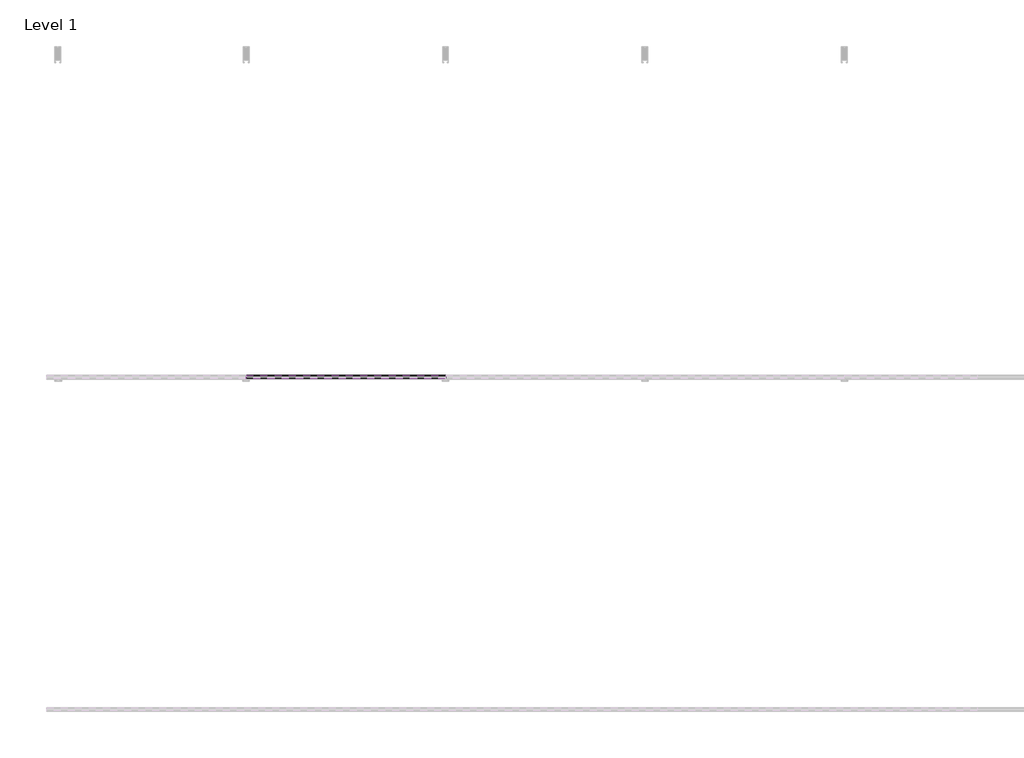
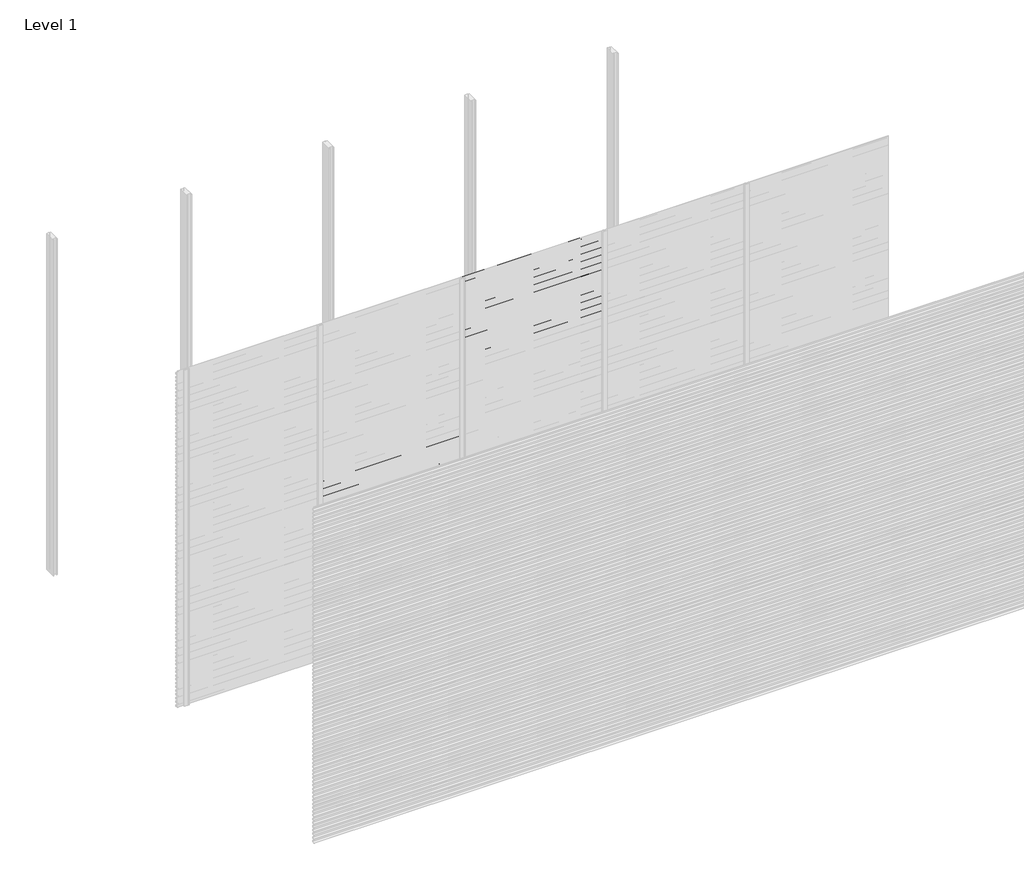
# One storey, part 44 of 77: 72 proxies.
"""IFC4 building model written with IfcOpenShell, lengths in millimetres."""

from ifc_helpers import new_model, si_unit, frame, origin, place, context, project, spatial, polyline, outline, extrude, element, save

model = new_model("IFC4")

# Units and contexts
model_context = context("Model", 3, world=origin())
ifc_project = project(units=[si_unit("LENGTHUNIT", "METRE", prefix="MILLI")], contexts=[model_context])

# Site, building, storey
site = spatial("IfcSite", under=ifc_project)
building = spatial("IfcBuilding", under=site)
storey = spatial("IfcBuildingStorey", under=building, Name="Level 1", Elevation=0.0)

# Proxies
placement = place(None, origin())
element("IfcBuildingElementProxy", 1, Name="Wall Sweeps", at=placement, inside=storey, context=model_context, shape_type="SweptSolid", body=[
    extrude(outline(polyline([(-23978.6, 1607.2359887), (-23998.0, 1618.4366691), (-23998.0, 1631.7), (-23997.0, 1631.7), (-23997.0, 1619.0191057), (-23977.6, 1607.8185105), (-23977.6, 1594.2185105), (-23978.6, 1595.7953129), (-23978.6, 1601.6032062), (-23995.9773817, 1593.5), (-23996.4, 1594.4063078), (-23978.6, 1602.7065841), (-23978.6, 1607.2359887)])), frame((1200.0, 0.0, 0.0), z_axis=(1.0, 0.0, 0.0), x_axis=(0.0, 1.0, 0.0)), (0.0, 0.0, 1.0), 1200.0),
])
element("IfcBuildingElementProxy", 2, Name="Wall Sweeps", at=placement, inside=storey, context=model_context, shape_type="SweptSolid", body=[
    extrude(outline(polyline([(-23978.6, 1573.9359887), (-23998.0, 1585.1366691), (-23998.0, 1598.4), (-23997.0, 1598.4), (-23997.0, 1585.7191057), (-23977.6, 1574.5185105), (-23977.6, 1560.9185105), (-23978.6, 1562.4953129), (-23978.6, 1568.3032062), (-23995.9773817, 1560.2), (-23996.4, 1561.1063078), (-23978.6, 1569.4065841), (-23978.6, 1573.9359887)])), frame((1200.0, 0.0, 0.0), z_axis=(1.0, 0.0, 0.0), x_axis=(0.0, 1.0, 0.0)), (0.0, 0.0, 1.0), 1200.0),
])
element("IfcBuildingElementProxy", 3, Name="Wall Sweeps", at=placement, inside=storey, context=model_context, shape_type="SweptSolid", body=[
    extrude(outline(polyline([(-23978.6, 1540.6359887), (-23998.0, 1551.8366691), (-23998.0, 1565.1), (-23997.0, 1565.1), (-23997.0, 1552.4191057), (-23977.6, 1541.2185105), (-23977.6, 1527.6185105), (-23978.6, 1529.1953129), (-23978.6, 1535.0032062), (-23995.9773817, 1526.9), (-23996.4, 1527.8063078), (-23978.6, 1536.1065841), (-23978.6, 1540.6359887)])), frame((1200.0, 0.0, 0.0), z_axis=(1.0, 0.0, 0.0), x_axis=(0.0, 1.0, 0.0)), (0.0, 0.0, 1.0), 1200.0),
])
element("IfcBuildingElementProxy", 4, Name="Wall Sweeps", at=placement, inside=storey, context=model_context, shape_type="SweptSolid", body=[
    extrude(outline(polyline([(-23978.6, 1507.3359887), (-23998.0, 1518.5366691), (-23998.0, 1531.8), (-23997.0, 1531.8), (-23997.0, 1519.1191057), (-23977.6, 1507.9185105), (-23977.6, 1494.3185105), (-23978.6, 1495.8953129), (-23978.6, 1501.7032062), (-23995.9773817, 1493.6), (-23996.4, 1494.5063078), (-23978.6, 1502.8065841), (-23978.6, 1507.3359887)])), frame((1200.0, 0.0, 0.0), z_axis=(1.0, 0.0, 0.0), x_axis=(0.0, 1.0, 0.0)), (0.0, 0.0, 1.0), 1200.0),
])
element("IfcBuildingElementProxy", 5, Name="Wall Sweeps", at=placement, inside=storey, context=model_context, shape_type="SweptSolid", body=[
    extrude(outline(polyline([(-23978.6, 1474.0359887), (-23998.0, 1485.2366691), (-23998.0, 1498.5), (-23997.0, 1498.5), (-23997.0, 1485.8191057), (-23977.6, 1474.6185105), (-23977.6, 1461.0185105), (-23978.6, 1462.5953129), (-23978.6, 1468.4032062), (-23995.9773817, 1460.3), (-23996.4, 1461.2063078), (-23978.6, 1469.5065841), (-23978.6, 1474.0359887)])), frame((1200.0, 0.0, 0.0), z_axis=(1.0, 0.0, 0.0), x_axis=(0.0, 1.0, 0.0)), (0.0, 0.0, 1.0), 1200.0),
])
element("IfcBuildingElementProxy", 6, Name="Wall Sweeps", at=placement, inside=storey, context=model_context, shape_type="SweptSolid", body=[
    extrude(outline(polyline([(-23978.6, 1440.7359887), (-23998.0, 1451.9366691), (-23998.0, 1465.2), (-23997.0, 1465.2), (-23997.0, 1452.5191057), (-23977.6, 1441.3185105), (-23977.6, 1427.7185105), (-23978.6, 1429.2953129), (-23978.6, 1435.1032062), (-23995.9773817, 1427.0), (-23996.4, 1427.9063078), (-23978.6, 1436.2065841), (-23978.6, 1440.7359887)])), frame((1200.0, 0.0, 0.0), z_axis=(1.0, 0.0, 0.0), x_axis=(0.0, 1.0, 0.0)), (0.0, 0.0, 1.0), 1200.0),
])
element("IfcBuildingElementProxy", 7, Name="Wall Sweeps", at=placement, inside=storey, context=model_context, shape_type="SweptSolid", body=[
    extrude(outline(polyline([(-23978.6, 1407.4359887), (-23998.0, 1418.6366691), (-23998.0, 1431.9), (-23997.0, 1431.9), (-23997.0, 1419.2191057), (-23977.6, 1408.0185105), (-23977.6, 1394.4185105), (-23978.6, 1395.9953129), (-23978.6, 1401.8032062), (-23995.9773817, 1393.7), (-23996.4, 1394.6063078), (-23978.6, 1402.9065841), (-23978.6, 1407.4359887)])), frame((1200.0, 0.0, 0.0), z_axis=(1.0, 0.0, 0.0), x_axis=(0.0, 1.0, 0.0)), (0.0, 0.0, 1.0), 1200.0),
])
element("IfcBuildingElementProxy", 8, Name="Wall Sweeps", at=placement, inside=storey, context=model_context, shape_type="SweptSolid", body=[
    extrude(outline(polyline([(-23978.6, 1374.1359887), (-23998.0, 1385.3366691), (-23998.0, 1398.6), (-23997.0, 1398.6), (-23997.0, 1385.9191057), (-23977.6, 1374.7185105), (-23977.6, 1361.1185105), (-23978.6, 1362.6953129), (-23978.6, 1368.5032062), (-23995.9773817, 1360.4), (-23996.4, 1361.3063078), (-23978.6, 1369.6065841), (-23978.6, 1374.1359887)])), frame((1200.0, 0.0, 0.0), z_axis=(1.0, 0.0, 0.0), x_axis=(0.0, 1.0, 0.0)), (0.0, 0.0, 1.0), 1200.0),
])
element("IfcBuildingElementProxy", 9, Name="Wall Sweeps", at=placement, inside=storey, context=model_context, shape_type="SweptSolid", body=[
    extrude(outline(polyline([(-23978.6, 1340.8359887), (-23998.0, 1352.0366691), (-23998.0, 1365.3), (-23997.0, 1365.3), (-23997.0, 1352.6191057), (-23977.6, 1341.4185105), (-23977.6, 1327.8185105), (-23978.6, 1329.3953129), (-23978.6, 1335.2032062), (-23995.9773817, 1327.1), (-23996.4, 1328.0063078), (-23978.6, 1336.3065841), (-23978.6, 1340.8359887)])), frame((1200.0, 0.0, 0.0), z_axis=(1.0, 0.0, 0.0), x_axis=(0.0, 1.0, 0.0)), (0.0, 0.0, 1.0), 1200.0),
])
element("IfcBuildingElementProxy", 10, Name="Wall Sweeps", at=placement, inside=storey, context=model_context, shape_type="SweptSolid", body=[
    extrude(outline(polyline([(-23978.6, 1307.5359887), (-23998.0, 1318.7366691), (-23998.0, 1332.0), (-23997.0, 1332.0), (-23997.0, 1319.3191057), (-23977.6, 1308.1185105), (-23977.6, 1294.5185105), (-23978.6, 1296.0953129), (-23978.6, 1301.9032062), (-23995.9773817, 1293.8), (-23996.4, 1294.7063078), (-23978.6, 1303.0065841), (-23978.6, 1307.5359887)])), frame((1200.0, 0.0, 0.0), z_axis=(1.0, 0.0, 0.0), x_axis=(0.0, 1.0, 0.0)), (0.0, 0.0, 1.0), 1200.0),
])
element("IfcBuildingElementProxy", 11, Name="Wall Sweeps", at=placement, inside=storey, context=model_context, shape_type="SweptSolid", body=[
    extrude(outline(polyline([(-23978.6, 1274.2359887), (-23998.0, 1285.4366691), (-23998.0, 1298.7), (-23997.0, 1298.7), (-23997.0, 1286.0191057), (-23977.6, 1274.8185105), (-23977.6, 1261.2185105), (-23978.6, 1262.7953129), (-23978.6, 1268.6032062), (-23995.9773817, 1260.5), (-23996.4, 1261.4063078), (-23978.6, 1269.7065841), (-23978.6, 1274.2359887)])), frame((1200.0, 0.0, 0.0), z_axis=(1.0, 0.0, 0.0), x_axis=(0.0, 1.0, 0.0)), (0.0, 0.0, 1.0), 1200.0),
])
element("IfcBuildingElementProxy", 12, Name="Wall Sweeps", at=placement, inside=storey, context=model_context, shape_type="SweptSolid", body=[
    extrude(outline(polyline([(-23978.6, 1240.9359887), (-23998.0, 1252.1366691), (-23998.0, 1265.4), (-23997.0, 1265.4), (-23997.0, 1252.7191057), (-23977.6, 1241.5185105), (-23977.6, 1227.9185105), (-23978.6, 1229.4953129), (-23978.6, 1235.3032062), (-23995.9773817, 1227.2), (-23996.4, 1228.1063078), (-23978.6, 1236.4065841), (-23978.6, 1240.9359887)])), frame((1200.0, 0.0, 0.0), z_axis=(1.0, 0.0, 0.0), x_axis=(0.0, 1.0, 0.0)), (0.0, 0.0, 1.0), 1200.0),
])
element("IfcBuildingElementProxy", 13, Name="Wall Sweeps", at=placement, inside=storey, context=model_context, shape_type="SweptSolid", body=[
    extrude(outline(polyline([(-23978.6, 1207.6359887), (-23998.0, 1218.8366691), (-23998.0, 1232.1), (-23997.0, 1232.1), (-23997.0, 1219.4191057), (-23977.6, 1208.2185105), (-23977.6, 1194.6185105), (-23978.6, 1196.1953129), (-23978.6, 1202.0032062), (-23995.9773817, 1193.9), (-23996.4, 1194.8063078), (-23978.6, 1203.1065841), (-23978.6, 1207.6359887)])), frame((1200.0, 0.0, 0.0), z_axis=(1.0, 0.0, 0.0), x_axis=(0.0, 1.0, 0.0)), (0.0, 0.0, 1.0), 1200.0),
])
element("IfcBuildingElementProxy", 14, Name="Wall Sweeps", at=placement, inside=storey, context=model_context, shape_type="SweptSolid", body=[
    extrude(outline(polyline([(-23978.6, 1174.3359887), (-23998.0, 1185.5366691), (-23998.0, 1198.8), (-23997.0, 1198.8), (-23997.0, 1186.1191057), (-23977.6, 1174.9185105), (-23977.6, 1161.3185105), (-23978.6, 1162.8953129), (-23978.6, 1168.7032062), (-23995.9773817, 1160.6), (-23996.4, 1161.5063078), (-23978.6, 1169.8065841), (-23978.6, 1174.3359887)])), frame((1200.0, 0.0, 0.0), z_axis=(1.0, 0.0, 0.0), x_axis=(0.0, 1.0, 0.0)), (0.0, 0.0, 1.0), 1200.0),
])
element("IfcBuildingElementProxy", 15, Name="Wall Sweeps", at=placement, inside=storey, context=model_context, shape_type="SweptSolid", body=[
    extrude(outline(polyline([(-23978.6, 1141.0359887), (-23998.0, 1152.2366691), (-23998.0, 1165.5), (-23997.0, 1165.5), (-23997.0, 1152.8191057), (-23977.6, 1141.6185105), (-23977.6, 1128.0185105), (-23978.6, 1129.5953129), (-23978.6, 1135.4032062), (-23995.9773817, 1127.3), (-23996.4, 1128.2063078), (-23978.6, 1136.5065841), (-23978.6, 1141.0359887)])), frame((1200.0, 0.0, 0.0), z_axis=(1.0, 0.0, 0.0), x_axis=(0.0, 1.0, 0.0)), (0.0, 0.0, 1.0), 1200.0),
])
element("IfcBuildingElementProxy", 16, Name="Wall Sweeps", at=placement, inside=storey, context=model_context, shape_type="SweptSolid", body=[
    extrude(outline(polyline([(-23978.6, 1107.7359887), (-23998.0, 1118.9366691), (-23998.0, 1132.2), (-23997.0, 1132.2), (-23997.0, 1119.5191057), (-23977.6, 1108.3185105), (-23977.6, 1094.7185105), (-23978.6, 1096.2953129), (-23978.6, 1102.1032062), (-23995.9773817, 1094.0), (-23996.4, 1094.9063078), (-23978.6, 1103.2065841), (-23978.6, 1107.7359887)])), frame((1200.0, 0.0, 0.0), z_axis=(1.0, 0.0, 0.0), x_axis=(0.0, 1.0, 0.0)), (0.0, 0.0, 1.0), 1200.0),
])
element("IfcBuildingElementProxy", 17, Name="Wall Sweeps", at=placement, inside=storey, context=model_context, shape_type="SweptSolid", body=[
    extrude(outline(polyline([(-23978.6, 1074.4359887), (-23998.0, 1085.6366691), (-23998.0, 1098.9), (-23997.0, 1098.9), (-23997.0, 1086.2191057), (-23977.6, 1075.0185105), (-23977.6, 1061.4185105), (-23978.6, 1062.9953129), (-23978.6, 1068.8032062), (-23995.9773817, 1060.7), (-23996.4, 1061.6063078), (-23978.6, 1069.9065841), (-23978.6, 1074.4359887)])), frame((1200.0, 0.0, 0.0), z_axis=(1.0, 0.0, 0.0), x_axis=(0.0, 1.0, 0.0)), (0.0, 0.0, 1.0), 1200.0),
])
element("IfcBuildingElementProxy", 18, Name="Wall Sweeps", at=placement, inside=storey, context=model_context, shape_type="SweptSolid", body=[
    extrude(outline(polyline([(-23978.6, 1041.1359887), (-23998.0, 1052.3366691), (-23998.0, 1065.6), (-23997.0, 1065.6), (-23997.0, 1052.9191057), (-23977.6, 1041.7185105), (-23977.6, 1028.1185105), (-23978.6, 1029.6953129), (-23978.6, 1035.5032062), (-23995.9773817, 1027.4), (-23996.4, 1028.3063078), (-23978.6, 1036.6065841), (-23978.6, 1041.1359887)])), frame((1200.0, 0.0, 0.0), z_axis=(1.0, 0.0, 0.0), x_axis=(0.0, 1.0, 0.0)), (0.0, 0.0, 1.0), 1200.0),
])
element("IfcBuildingElementProxy", 19, Name="Wall Sweeps", at=placement, inside=storey, context=model_context, shape_type="SweptSolid", body=[
    extrude(outline(polyline([(-23978.6, 1007.8359887), (-23998.0, 1019.0366691), (-23998.0, 1032.3), (-23997.0, 1032.3), (-23997.0, 1019.6191057), (-23977.6, 1008.4185105), (-23977.6, 994.8185105), (-23978.6, 996.3953129), (-23978.6, 1002.2032062), (-23995.9773817, 994.1), (-23996.4, 995.0063078), (-23978.6, 1003.3065841), (-23978.6, 1007.8359887)])), frame((1200.0, 0.0, 0.0), z_axis=(1.0, 0.0, 0.0), x_axis=(0.0, 1.0, 0.0)), (0.0, 0.0, 1.0), 1200.0),
])
element("IfcBuildingElementProxy", 20, Name="Wall Sweeps", at=placement, inside=storey, context=model_context, shape_type="SweptSolid", body=[
    extrude(outline(polyline([(-23978.6, 974.5359887), (-23998.0, 985.7366691), (-23998.0, 999.0), (-23997.0, 999.0), (-23997.0, 986.3191057), (-23977.6, 975.1185105), (-23977.6, 961.5185105), (-23978.6, 963.0953129), (-23978.6, 968.9032062), (-23995.9773817, 960.8), (-23996.4, 961.7063078), (-23978.6, 970.0065841), (-23978.6, 974.5359887)])), frame((1200.0, 0.0, 0.0), z_axis=(1.0, 0.0, 0.0), x_axis=(0.0, 1.0, 0.0)), (0.0, 0.0, 1.0), 1200.0),
])
element("IfcBuildingElementProxy", 21, Name="Wall Sweeps", at=placement, inside=storey, context=model_context, shape_type="SweptSolid", body=[
    extrude(outline(polyline([(-23978.6, 941.2359887), (-23998.0, 952.4366691), (-23998.0, 965.7), (-23997.0, 965.7), (-23997.0, 953.0191057), (-23977.6, 941.8185105), (-23977.6, 928.2185105), (-23978.6, 929.7953129), (-23978.6, 935.6032062), (-23995.9773817, 927.5), (-23996.4, 928.4063078), (-23978.6, 936.7065841), (-23978.6, 941.2359887)])), frame((1200.0, 0.0, 0.0), z_axis=(1.0, 0.0, 0.0), x_axis=(0.0, 1.0, 0.0)), (0.0, 0.0, 1.0), 1200.0),
])
element("IfcBuildingElementProxy", 22, Name="Wall Sweeps", at=placement, inside=storey, context=model_context, shape_type="SweptSolid", body=[
    extrude(outline(polyline([(-23978.6, 907.9359887), (-23998.0, 919.1366691), (-23998.0, 932.4), (-23997.0, 932.4), (-23997.0, 919.7191057), (-23977.6, 908.5185105), (-23977.6, 894.9185105), (-23978.6, 896.4953129), (-23978.6, 902.3032062), (-23995.9773817, 894.2), (-23996.4, 895.1063078), (-23978.6, 903.4065841), (-23978.6, 907.9359887)])), frame((1200.0, 0.0, 0.0), z_axis=(1.0, 0.0, 0.0), x_axis=(0.0, 1.0, 0.0)), (0.0, 0.0, 1.0), 1200.0),
])
element("IfcBuildingElementProxy", 23, Name="Wall Sweeps", at=placement, inside=storey, context=model_context, shape_type="SweptSolid", body=[
    extrude(outline(polyline([(-23978.6, 874.6359887), (-23998.0, 885.8366691), (-23998.0, 899.1), (-23997.0, 899.1), (-23997.0, 886.4191057), (-23977.6, 875.2185105), (-23977.6, 861.6185105), (-23978.6, 863.1953129), (-23978.6, 869.0032062), (-23995.9773817, 860.9), (-23996.4, 861.8063078), (-23978.6, 870.1065841), (-23978.6, 874.6359887)])), frame((1200.0, 0.0, 0.0), z_axis=(1.0, 0.0, 0.0), x_axis=(0.0, 1.0, 0.0)), (0.0, 0.0, 1.0), 1200.0),
])
element("IfcBuildingElementProxy", 24, Name="Wall Sweeps", at=placement, inside=storey, context=model_context, shape_type="SweptSolid", body=[
    extrude(outline(polyline([(-23978.6, 841.3359887), (-23998.0, 852.5366691), (-23998.0, 865.8), (-23997.0, 865.8), (-23997.0, 853.1191057), (-23977.6, 841.9185105), (-23977.6, 828.3185105), (-23978.6, 829.8953129), (-23978.6, 835.7032062), (-23995.9773817, 827.6), (-23996.4, 828.5063078), (-23978.6, 836.8065841), (-23978.6, 841.3359887)])), frame((1200.0, 0.0, 0.0), z_axis=(1.0, 0.0, 0.0), x_axis=(0.0, 1.0, 0.0)), (0.0, 0.0, 1.0), 1200.0),
])
element("IfcBuildingElementProxy", 25, Name="Wall Sweeps", at=placement, inside=storey, context=model_context, shape_type="SweptSolid", body=[
    extrude(outline(polyline([(-23978.6, 808.0359887), (-23998.0, 819.2366691), (-23998.0, 832.5), (-23997.0, 832.5), (-23997.0, 819.8191057), (-23977.6, 808.6185105), (-23977.6, 795.0185105), (-23978.6, 796.5953129), (-23978.6, 802.4032062), (-23995.9773817, 794.3), (-23996.4, 795.2063078), (-23978.6, 803.5065841), (-23978.6, 808.0359887)])), frame((1200.0, 0.0, 0.0), z_axis=(1.0, 0.0, 0.0), x_axis=(0.0, 1.0, 0.0)), (0.0, 0.0, 1.0), 1200.0),
])
element("IfcBuildingElementProxy", 26, Name="Wall Sweeps", at=placement, inside=storey, context=model_context, shape_type="SweptSolid", body=[
    extrude(outline(polyline([(-23978.6, 774.7359887), (-23998.0, 785.9366691), (-23998.0, 799.2), (-23997.0, 799.2), (-23997.0, 786.5191057), (-23977.6, 775.3185105), (-23977.6, 761.7185105), (-23978.6, 763.2953129), (-23978.6, 769.1032062), (-23995.9773817, 761.0), (-23996.4, 761.9063078), (-23978.6, 770.2065841), (-23978.6, 774.7359887)])), frame((1200.0, 0.0, 0.0), z_axis=(1.0, 0.0, 0.0), x_axis=(0.0, 1.0, 0.0)), (0.0, 0.0, 1.0), 1200.0),
])
element("IfcBuildingElementProxy", 27, Name="Wall Sweeps", at=placement, inside=storey, context=model_context, shape_type="SweptSolid", body=[
    extrude(outline(polyline([(-23978.6, 741.4359887), (-23998.0, 752.6366691), (-23998.0, 765.9), (-23997.0, 765.9), (-23997.0, 753.2191057), (-23977.6, 742.0185105), (-23977.6, 728.4185105), (-23978.6, 729.9953129), (-23978.6, 735.8032062), (-23995.9773817, 727.7), (-23996.4, 728.6063078), (-23978.6, 736.9065841), (-23978.6, 741.4359887)])), frame((1200.0, 0.0, 0.0), z_axis=(1.0, 0.0, 0.0), x_axis=(0.0, 1.0, 0.0)), (0.0, 0.0, 1.0), 1200.0),
])
element("IfcBuildingElementProxy", 28, Name="Wall Sweeps", at=placement, inside=storey, context=model_context, shape_type="SweptSolid", body=[
    extrude(outline(polyline([(-23978.6, 708.1359887), (-23998.0, 719.3366691), (-23998.0, 732.6), (-23997.0, 732.6), (-23997.0, 719.9191057), (-23977.6, 708.7185105), (-23977.6, 695.1185105), (-23978.6, 696.6953129), (-23978.6, 702.5032062), (-23995.9773817, 694.4), (-23996.4, 695.3063078), (-23978.6, 703.6065841), (-23978.6, 708.1359887)])), frame((1200.0, 0.0, 0.0), z_axis=(1.0, 0.0, 0.0), x_axis=(0.0, 1.0, 0.0)), (0.0, 0.0, 1.0), 1200.0),
])
element("IfcBuildingElementProxy", 29, Name="Wall Sweeps", at=placement, inside=storey, context=model_context, shape_type="SweptSolid", body=[
    extrude(outline(polyline([(-23978.6, 674.8359887), (-23998.0, 686.0366691), (-23998.0, 699.3), (-23997.0, 699.3), (-23997.0, 686.6191057), (-23977.6, 675.4185105), (-23977.6, 661.8185105), (-23978.6, 663.3953129), (-23978.6, 669.2032062), (-23995.9773817, 661.1), (-23996.4, 662.0063078), (-23978.6, 670.3065841), (-23978.6, 674.8359887)])), frame((1200.0, 0.0, 0.0), z_axis=(1.0, 0.0, 0.0), x_axis=(0.0, 1.0, 0.0)), (0.0, 0.0, 1.0), 1200.0),
])
element("IfcBuildingElementProxy", 30, Name="Wall Sweeps", at=placement, inside=storey, context=model_context, shape_type="SweptSolid", body=[
    extrude(outline(polyline([(-23978.6, 641.5359887), (-23998.0, 652.7366691), (-23998.0, 666.0), (-23997.0, 666.0), (-23997.0, 653.3191057), (-23977.6, 642.1185105), (-23977.6, 628.5185105), (-23978.6, 630.0953129), (-23978.6, 635.9032062), (-23995.9773817, 627.8), (-23996.4, 628.7063078), (-23978.6, 637.0065841), (-23978.6, 641.5359887)])), frame((1200.0, 0.0, 0.0), z_axis=(1.0, 0.0, 0.0), x_axis=(0.0, 1.0, 0.0)), (0.0, 0.0, 1.0), 1200.0),
])
element("IfcBuildingElementProxy", 31, Name="Wall Sweeps", at=placement, inside=storey, context=model_context, shape_type="SweptSolid", body=[
    extrude(outline(polyline([(-23978.6, 608.2359887), (-23998.0, 619.4366691), (-23998.0, 632.7), (-23997.0, 632.7), (-23997.0, 620.0191057), (-23977.6, 608.8185105), (-23977.6, 595.2185105), (-23978.6, 596.7953129), (-23978.6, 602.6032062), (-23995.9773817, 594.5), (-23996.4, 595.4063078), (-23978.6, 603.7065841), (-23978.6, 608.2359887)])), frame((1200.0, 0.0, 0.0), z_axis=(1.0, 0.0, 0.0), x_axis=(0.0, 1.0, 0.0)), (0.0, 0.0, 1.0), 1200.0),
])
element("IfcBuildingElementProxy", 32, Name="Wall Sweeps", at=placement, inside=storey, context=model_context, shape_type="SweptSolid", body=[
    extrude(outline(polyline([(-23978.6, 574.9359887), (-23998.0, 586.1366691), (-23998.0, 599.4), (-23997.0, 599.4), (-23997.0, 586.7191057), (-23977.6, 575.5185105), (-23977.6, 561.9185105), (-23978.6, 563.4953129), (-23978.6, 569.3032062), (-23995.9773817, 561.2), (-23996.4, 562.1063078), (-23978.6, 570.4065841), (-23978.6, 574.9359887)])), frame((1200.0, 0.0, 0.0), z_axis=(1.0, 0.0, 0.0), x_axis=(0.0, 1.0, 0.0)), (0.0, 0.0, 1.0), 1200.0),
])
element("IfcBuildingElementProxy", 33, Name="Wall Sweeps", at=placement, inside=storey, context=model_context, shape_type="SweptSolid", body=[
    extrude(outline(polyline([(-23978.6, 541.6359887), (-23998.0, 552.8366691), (-23998.0, 566.1), (-23997.0, 566.1), (-23997.0, 553.4191057), (-23977.6, 542.2185105), (-23977.6, 528.6185105), (-23978.6, 530.1953129), (-23978.6, 536.0032062), (-23995.9773817, 527.9), (-23996.4, 528.8063078), (-23978.6, 537.1065841), (-23978.6, 541.6359887)])), frame((1200.0, 0.0, 0.0), z_axis=(1.0, 0.0, 0.0), x_axis=(0.0, 1.0, 0.0)), (0.0, 0.0, 1.0), 1200.0),
])
element("IfcBuildingElementProxy", 34, Name="Wall Sweeps", at=placement, inside=storey, context=model_context, shape_type="SweptSolid", body=[
    extrude(outline(polyline([(-23978.6, 508.3359887), (-23998.0, 519.5366691), (-23998.0, 532.8), (-23997.0, 532.8), (-23997.0, 520.1191057), (-23977.6, 508.9185105), (-23977.6, 495.3185105), (-23978.6, 496.8953129), (-23978.6, 502.7032062), (-23995.9773817, 494.6), (-23996.4, 495.5063078), (-23978.6, 503.8065841), (-23978.6, 508.3359887)])), frame((1200.0, 0.0, 0.0), z_axis=(1.0, 0.0, 0.0), x_axis=(0.0, 1.0, 0.0)), (0.0, 0.0, 1.0), 1200.0),
])
element("IfcBuildingElementProxy", 35, Name="Wall Sweeps", at=placement, inside=storey, context=model_context, shape_type="SweptSolid", body=[
    extrude(outline(polyline([(-23978.6, 475.0359887), (-23998.0, 486.2366691), (-23998.0, 499.5), (-23997.0, 499.5), (-23997.0, 486.8191057), (-23977.6, 475.6185105), (-23977.6, 462.0185105), (-23978.6, 463.5953129), (-23978.6, 469.4032062), (-23995.9773817, 461.3), (-23996.4, 462.2063078), (-23978.6, 470.5065841), (-23978.6, 475.0359887)])), frame((1200.0, 0.0, 0.0), z_axis=(1.0, 0.0, 0.0), x_axis=(0.0, 1.0, 0.0)), (0.0, 0.0, 1.0), 1200.0),
])
element("IfcBuildingElementProxy", 36, Name="Wall Sweeps", at=placement, inside=storey, context=model_context, shape_type="SweptSolid", body=[
    extrude(outline(polyline([(-23978.6, 441.7359887), (-23998.0, 452.9366691), (-23998.0, 466.2), (-23997.0, 466.2), (-23997.0, 453.5191057), (-23977.6, 442.3185105), (-23977.6, 428.7185105), (-23978.6, 430.2953129), (-23978.6, 436.1032062), (-23995.9773817, 428.0), (-23996.4, 428.9063078), (-23978.6, 437.2065841), (-23978.6, 441.7359887)])), frame((1200.0, 0.0, 0.0), z_axis=(1.0, 0.0, 0.0), x_axis=(0.0, 1.0, 0.0)), (0.0, 0.0, 1.0), 1200.0),
])
element("IfcBuildingElementProxy", 37, Name="Wall Sweeps", at=placement, inside=storey, context=model_context, shape_type="SweptSolid", body=[
    extrude(outline(polyline([(-23978.6, 408.4359887), (-23998.0, 419.6366691), (-23998.0, 432.9), (-23997.0, 432.9), (-23997.0, 420.2191057), (-23977.6, 409.0185105), (-23977.6, 395.4185105), (-23978.6, 396.9953129), (-23978.6, 402.8032062), (-23995.9773817, 394.7), (-23996.4, 395.6063078), (-23978.6, 403.9065841), (-23978.6, 408.4359887)])), frame((1200.0, 0.0, 0.0), z_axis=(1.0, 0.0, 0.0), x_axis=(0.0, 1.0, 0.0)), (0.0, 0.0, 1.0), 1200.0),
])
element("IfcBuildingElementProxy", 38, Name="Wall Sweeps", at=placement, inside=storey, context=model_context, shape_type="SweptSolid", body=[
    extrude(outline(polyline([(-23978.6, 375.1359887), (-23998.0, 386.3366691), (-23998.0, 399.6), (-23997.0, 399.6), (-23997.0, 386.9191057), (-23977.6, 375.7185105), (-23977.6, 362.1185105), (-23978.6, 363.6953129), (-23978.6, 369.5032062), (-23995.9773817, 361.4), (-23996.4, 362.3063078), (-23978.6, 370.6065841), (-23978.6, 375.1359887)])), frame((1200.0, 0.0, 0.0), z_axis=(1.0, 0.0, 0.0), x_axis=(0.0, 1.0, 0.0)), (0.0, 0.0, 1.0), 1200.0),
])
element("IfcBuildingElementProxy", 39, Name="Wall Sweeps", at=placement, inside=storey, context=model_context, shape_type="SweptSolid", body=[
    extrude(outline(polyline([(-23978.6, 341.8359887), (-23998.0, 353.0366691), (-23998.0, 366.3), (-23997.0, 366.3), (-23997.0, 353.6191057), (-23977.6, 342.4185105), (-23977.6, 328.8185105), (-23978.6, 330.3953129), (-23978.6, 336.2032062), (-23995.9773817, 328.1), (-23996.4, 329.0063078), (-23978.6, 337.3065841), (-23978.6, 341.8359887)])), frame((1200.0, 0.0, 0.0), z_axis=(1.0, 0.0, 0.0), x_axis=(0.0, 1.0, 0.0)), (0.0, 0.0, 1.0), 1200.0),
])
element("IfcBuildingElementProxy", 40, Name="Wall Sweeps", at=placement, inside=storey, context=model_context, shape_type="SweptSolid", body=[
    extrude(outline(polyline([(-23978.6, 308.5359887), (-23998.0, 319.7366691), (-23998.0, 333.0), (-23997.0, 333.0), (-23997.0, 320.3191057), (-23977.6, 309.1185105), (-23977.6, 295.5185105), (-23978.6, 297.0953129), (-23978.6, 302.9032062), (-23995.9773817, 294.8), (-23996.4, 295.7063078), (-23978.6, 304.0065841), (-23978.6, 308.5359887)])), frame((1200.0, 0.0, 0.0), z_axis=(1.0, 0.0, 0.0), x_axis=(0.0, 1.0, 0.0)), (0.0, 0.0, 1.0), 1200.0),
])
element("IfcBuildingElementProxy", 41, Name="Wall Sweeps", at=placement, inside=storey, context=model_context, shape_type="SweptSolid", body=[
    extrude(outline(polyline([(-23978.6, 275.2359887), (-23998.0, 286.4366691), (-23998.0, 299.7), (-23997.0, 299.7), (-23997.0, 287.0191057), (-23977.6, 275.8185105), (-23977.6, 262.2185105), (-23978.6, 263.7953129), (-23978.6, 269.6032062), (-23995.9773817, 261.5), (-23996.4, 262.4063078), (-23978.6, 270.7065841), (-23978.6, 275.2359887)])), frame((1200.0, 0.0, 0.0), z_axis=(1.0, 0.0, 0.0), x_axis=(0.0, 1.0, 0.0)), (0.0, 0.0, 1.0), 1200.0),
])
element("IfcBuildingElementProxy", 42, Name="Wall Sweeps", at=placement, inside=storey, context=model_context, shape_type="SweptSolid", body=[
    extrude(outline(polyline([(-23978.6, 241.9359887), (-23998.0, 253.1366691), (-23998.0, 266.4), (-23997.0, 266.4), (-23997.0, 253.7191057), (-23977.6, 242.5185105), (-23977.6, 228.9185105), (-23978.6, 230.4953129), (-23978.6, 236.3032062), (-23995.9773817, 228.2), (-23996.4, 229.1063078), (-23978.6, 237.4065841), (-23978.6, 241.9359887)])), frame((1200.0, 0.0, 0.0), z_axis=(1.0, 0.0, 0.0), x_axis=(0.0, 1.0, 0.0)), (0.0, 0.0, 1.0), 1200.0),
])
element("IfcBuildingElementProxy", 43, Name="Wall Sweeps", at=placement, inside=storey, context=model_context, shape_type="SweptSolid", body=[
    extrude(outline(polyline([(-23978.6, 208.6359887), (-23998.0, 219.8366691), (-23998.0, 233.1), (-23997.0, 233.1), (-23997.0, 220.4191057), (-23977.6, 209.2185105), (-23977.6, 195.6185105), (-23978.6, 197.1953129), (-23978.6, 203.0032062), (-23995.9773817, 194.9), (-23996.4, 195.8063078), (-23978.6, 204.1065841), (-23978.6, 208.6359887)])), frame((1200.0, 0.0, 0.0), z_axis=(1.0, 0.0, 0.0), x_axis=(0.0, 1.0, 0.0)), (0.0, 0.0, 1.0), 1200.0),
])
element("IfcBuildingElementProxy", 44, Name="Wall Sweeps", at=placement, inside=storey, context=model_context, shape_type="SweptSolid", body=[
    extrude(outline(polyline([(-23978.6, 175.3359887), (-23998.0, 186.5366691), (-23998.0, 199.8), (-23997.0, 199.8), (-23997.0, 187.1191057), (-23977.6, 175.9185105), (-23977.6, 162.3185105), (-23978.6, 163.8953129), (-23978.6, 169.7032062), (-23995.9773817, 161.6), (-23996.4, 162.5063078), (-23978.6, 170.8065841), (-23978.6, 175.3359887)])), frame((1200.0, 0.0, 0.0), z_axis=(1.0, 0.0, 0.0), x_axis=(0.0, 1.0, 0.0)), (0.0, 0.0, 1.0), 1200.0),
])
element("IfcBuildingElementProxy", 45, Name="Wall Sweeps", at=placement, inside=storey, context=model_context, shape_type="SweptSolid", body=[
    extrude(outline(polyline([(-23978.6, 142.0359887), (-23998.0, 153.2366691), (-23998.0, 166.5), (-23997.0, 166.5), (-23997.0, 153.8191057), (-23977.6, 142.6185105), (-23977.6, 129.0185105), (-23978.6, 130.5953129), (-23978.6, 136.4032062), (-23995.9773817, 128.3), (-23996.4, 129.2063078), (-23978.6, 137.5065841), (-23978.6, 142.0359887)])), frame((1200.0, 0.0, 0.0), z_axis=(1.0, 0.0, 0.0), x_axis=(0.0, 1.0, 0.0)), (0.0, 0.0, 1.0), 1200.0),
])
element("IfcBuildingElementProxy", 46, Name="Wall Sweeps", at=placement, inside=storey, context=model_context, shape_type="SweptSolid", body=[
    extrude(outline(polyline([(-23978.6, 108.7359887), (-23998.0, 119.9366691), (-23998.0, 133.2), (-23997.0, 133.2), (-23997.0, 120.5191057), (-23977.6, 109.3185105), (-23977.6, 95.7185105), (-23978.6, 97.2953129), (-23978.6, 103.1032062), (-23995.9773817, 95.0), (-23996.4, 95.9063078), (-23978.6, 104.2065841), (-23978.6, 108.7359887)])), frame((1200.0, 0.0, 0.0), z_axis=(1.0, 0.0, 0.0), x_axis=(0.0, 1.0, 0.0)), (0.0, 0.0, 1.0), 1200.0),
])
element("IfcBuildingElementProxy", 47, Name="Wall Sweeps", at=placement, inside=storey, context=model_context, shape_type="SweptSolid", body=[
    extrude(outline(polyline([(-23978.6, 75.4359887), (-23998.0, 86.6366691), (-23998.0, 99.9), (-23997.0, 99.9), (-23997.0, 87.2191057), (-23977.6, 76.0185105), (-23977.6, 62.4185105), (-23978.6, 63.9953129), (-23978.6, 69.8032062), (-23995.9773817, 61.7), (-23996.4, 62.6063078), (-23978.6, 70.9065841), (-23978.6, 75.4359887)])), frame((1200.0, 0.0, 0.0), z_axis=(1.0, 0.0, 0.0), x_axis=(0.0, 1.0, 0.0)), (0.0, 0.0, 1.0), 1200.0),
])
element("IfcBuildingElementProxy", 48, Name="Wall Sweeps", at=placement, inside=storey, context=model_context, shape_type="SweptSolid", body=[
    extrude(outline(polyline([(-23978.6, 42.1359887), (-23998.0, 53.3366691), (-23998.0, 66.6), (-23997.0, 66.6), (-23997.0, 53.9191057), (-23977.6, 42.7185105), (-23977.6, 29.1185105), (-23978.6, 30.6953129), (-23978.6, 36.5032062), (-23995.9773817, 28.4), (-23996.4, 29.3063078), (-23978.6, 37.6065841), (-23978.6, 42.1359887)])), frame((1200.0, 0.0, 0.0), z_axis=(1.0, 0.0, 0.0), x_axis=(0.0, 1.0, 0.0)), (0.0, 0.0, 1.0), 1200.0),
])
element("IfcBuildingElementProxy", 49, Name="Wall Sweeps", at=placement, inside=storey, context=model_context, shape_type="SweptSolid", body=[
    extrude(outline(polyline([(-23978.6, 8.8359887), (-23998.0, 20.0366691), (-23998.0, 33.3), (-23997.0, 33.3), (-23997.0, 20.6191057), (-23977.6, 9.4185105), (-23977.6, -4.1814895), (-23978.6, -2.6046871), (-23978.6, 3.2032062), (-23995.9773817, -4.9), (-23996.4, -3.9936922), (-23978.6, 4.3065841), (-23978.6, 8.8359887)])), frame((1200.0, 0.0, 0.0), z_axis=(1.0, 0.0, 0.0), x_axis=(0.0, 1.0, 0.0)), (0.0, 0.0, 1.0), 1200.0),
])
element("IfcBuildingElementProxy", 50, Name="Wall Sweeps", at=placement, inside=storey, context=model_context, shape_type="SweptSolid", body=[
    extrude(outline(polyline([(-23978.6, 2972.5359887), (-23998.0, 2983.7366691), (-23998.0, 2997.0), (-23997.0, 2997.0), (-23997.0, 2984.3191057), (-23977.6, 2973.1185105), (-23977.6, 2959.5185105), (-23978.6, 2961.0953129), (-23978.6, 2966.9032062), (-23995.9773817, 2958.8), (-23996.4, 2959.7063078), (-23978.6, 2968.0065841), (-23978.6, 2972.5359887)])), frame((2400.0, 0.0, 0.0), z_axis=(1.0, 0.0, 0.0), x_axis=(0.0, 1.0, 0.0)), (0.0, 0.0, 1.0), 1200.0),
])
element("IfcBuildingElementProxy", 51, Name="Wall Sweeps", at=placement, inside=storey, context=model_context, shape_type="SweptSolid", body=[
    extrude(outline(polyline([(-23978.6, 2939.2359887), (-23998.0, 2950.4366691), (-23998.0, 2963.7), (-23997.0, 2963.7), (-23997.0, 2951.0191057), (-23977.6, 2939.8185105), (-23977.6, 2926.2185105), (-23978.6, 2927.7953129), (-23978.6, 2933.6032062), (-23995.9773817, 2925.5), (-23996.4, 2926.4063078), (-23978.6, 2934.7065841), (-23978.6, 2939.2359887)])), frame((2400.0, 0.0, 0.0), z_axis=(1.0, 0.0, 0.0), x_axis=(0.0, 1.0, 0.0)), (0.0, 0.0, 1.0), 1200.0),
])
element("IfcBuildingElementProxy", 52, Name="Wall Sweeps", at=placement, inside=storey, context=model_context, shape_type="SweptSolid", body=[
    extrude(outline(polyline([(-23978.6, 2905.9359887), (-23998.0, 2917.1366691), (-23998.0, 2930.4), (-23997.0, 2930.4), (-23997.0, 2917.7191057), (-23977.6, 2906.5185105), (-23977.6, 2892.9185105), (-23978.6, 2894.4953129), (-23978.6, 2900.3032062), (-23995.9773817, 2892.2), (-23996.4, 2893.1063078), (-23978.6, 2901.4065841), (-23978.6, 2905.9359887)])), frame((2400.0, 0.0, 0.0), z_axis=(1.0, 0.0, 0.0), x_axis=(0.0, 1.0, 0.0)), (0.0, 0.0, 1.0), 1200.0),
])
element("IfcBuildingElementProxy", 53, Name="Wall Sweeps", at=placement, inside=storey, context=model_context, shape_type="SweptSolid", body=[
    extrude(outline(polyline([(-23978.6, 2872.6359887), (-23998.0, 2883.8366691), (-23998.0, 2897.1), (-23997.0, 2897.1), (-23997.0, 2884.4191057), (-23977.6, 2873.2185105), (-23977.6, 2859.6185105), (-23978.6, 2861.1953129), (-23978.6, 2867.0032062), (-23995.9773817, 2858.9), (-23996.4, 2859.8063078), (-23978.6, 2868.1065841), (-23978.6, 2872.6359887)])), frame((2400.0, 0.0, 0.0), z_axis=(1.0, 0.0, 0.0), x_axis=(0.0, 1.0, 0.0)), (0.0, 0.0, 1.0), 1200.0),
])
element("IfcBuildingElementProxy", 54, Name="Wall Sweeps", at=placement, inside=storey, context=model_context, shape_type="SweptSolid", body=[
    extrude(outline(polyline([(-23978.6, 2839.3359887), (-23998.0, 2850.5366691), (-23998.0, 2863.8), (-23997.0, 2863.8), (-23997.0, 2851.1191057), (-23977.6, 2839.9185105), (-23977.6, 2826.3185105), (-23978.6, 2827.8953129), (-23978.6, 2833.7032062), (-23995.9773817, 2825.6), (-23996.4, 2826.5063078), (-23978.6, 2834.8065841), (-23978.6, 2839.3359887)])), frame((2400.0, 0.0, 0.0), z_axis=(1.0, 0.0, 0.0), x_axis=(0.0, 1.0, 0.0)), (0.0, 0.0, 1.0), 1200.0),
])
element("IfcBuildingElementProxy", 55, Name="Wall Sweeps", at=placement, inside=storey, context=model_context, shape_type="SweptSolid", body=[
    extrude(outline(polyline([(-23978.6, 2806.0359887), (-23998.0, 2817.2366691), (-23998.0, 2830.5), (-23997.0, 2830.5), (-23997.0, 2817.8191057), (-23977.6, 2806.6185105), (-23977.6, 2793.0185105), (-23978.6, 2794.5953129), (-23978.6, 2800.4032062), (-23995.9773817, 2792.3), (-23996.4, 2793.2063078), (-23978.6, 2801.5065841), (-23978.6, 2806.0359887)])), frame((2400.0, 0.0, 0.0), z_axis=(1.0, 0.0, 0.0), x_axis=(0.0, 1.0, 0.0)), (0.0, 0.0, 1.0), 1200.0),
])
element("IfcBuildingElementProxy", 56, Name="Wall Sweeps", at=placement, inside=storey, context=model_context, shape_type="SweptSolid", body=[
    extrude(outline(polyline([(-23978.6, 2772.7359887), (-23998.0, 2783.9366691), (-23998.0, 2797.2), (-23997.0, 2797.2), (-23997.0, 2784.5191057), (-23977.6, 2773.3185105), (-23977.6, 2759.7185105), (-23978.6, 2761.2953129), (-23978.6, 2767.1032062), (-23995.9773817, 2759.0), (-23996.4, 2759.9063078), (-23978.6, 2768.2065841), (-23978.6, 2772.7359887)])), frame((2400.0, 0.0, 0.0), z_axis=(1.0, 0.0, 0.0), x_axis=(0.0, 1.0, 0.0)), (0.0, 0.0, 1.0), 1200.0),
])
element("IfcBuildingElementProxy", 57, Name="Wall Sweeps", at=placement, inside=storey, context=model_context, shape_type="SweptSolid", body=[
    extrude(outline(polyline([(-23978.6, 2739.4359887), (-23998.0, 2750.6366691), (-23998.0, 2763.9), (-23997.0, 2763.9), (-23997.0, 2751.2191057), (-23977.6, 2740.0185105), (-23977.6, 2726.4185105), (-23978.6, 2727.9953129), (-23978.6, 2733.8032062), (-23995.9773817, 2725.7), (-23996.4, 2726.6063078), (-23978.6, 2734.9065841), (-23978.6, 2739.4359887)])), frame((2400.0, 0.0, 0.0), z_axis=(1.0, 0.0, 0.0), x_axis=(0.0, 1.0, 0.0)), (0.0, 0.0, 1.0), 1200.0),
])
element("IfcBuildingElementProxy", 58, Name="Wall Sweeps", at=placement, inside=storey, context=model_context, shape_type="SweptSolid", body=[
    extrude(outline(polyline([(-23978.6, 2706.1359887), (-23998.0, 2717.3366691), (-23998.0, 2730.6), (-23997.0, 2730.6), (-23997.0, 2717.9191057), (-23977.6, 2706.7185105), (-23977.6, 2693.1185105), (-23978.6, 2694.6953129), (-23978.6, 2700.5032062), (-23995.9773817, 2692.4), (-23996.4, 2693.3063078), (-23978.6, 2701.6065841), (-23978.6, 2706.1359887)])), frame((2400.0, 0.0, 0.0), z_axis=(1.0, 0.0, 0.0), x_axis=(0.0, 1.0, 0.0)), (0.0, 0.0, 1.0), 1200.0),
])
element("IfcBuildingElementProxy", 59, Name="Wall Sweeps", at=placement, inside=storey, context=model_context, shape_type="SweptSolid", body=[
    extrude(outline(polyline([(-23978.6, 2672.8359887), (-23998.0, 2684.0366691), (-23998.0, 2697.3), (-23997.0, 2697.3), (-23997.0, 2684.6191057), (-23977.6, 2673.4185105), (-23977.6, 2659.8185105), (-23978.6, 2661.3953129), (-23978.6, 2667.2032062), (-23995.9773817, 2659.1), (-23996.4, 2660.0063078), (-23978.6, 2668.3065841), (-23978.6, 2672.8359887)])), frame((2400.0, 0.0, 0.0), z_axis=(1.0, 0.0, 0.0), x_axis=(0.0, 1.0, 0.0)), (0.0, 0.0, 1.0), 1200.0),
])
element("IfcBuildingElementProxy", 60, Name="Wall Sweeps", at=placement, inside=storey, context=model_context, shape_type="SweptSolid", body=[
    extrude(outline(polyline([(-23978.6, 2639.5359887), (-23998.0, 2650.7366691), (-23998.0, 2664.0), (-23997.0, 2664.0), (-23997.0, 2651.3191057), (-23977.6, 2640.1185105), (-23977.6, 2626.5185105), (-23978.6, 2628.0953129), (-23978.6, 2633.9032062), (-23995.9773817, 2625.8), (-23996.4, 2626.7063078), (-23978.6, 2635.0065841), (-23978.6, 2639.5359887)])), frame((2400.0, 0.0, 0.0), z_axis=(1.0, 0.0, 0.0), x_axis=(0.0, 1.0, 0.0)), (0.0, 0.0, 1.0), 1200.0),
])
element("IfcBuildingElementProxy", 61, Name="Wall Sweeps", at=placement, inside=storey, context=model_context, shape_type="SweptSolid", body=[
    extrude(outline(polyline([(-23978.6, 2606.2359887), (-23998.0, 2617.4366691), (-23998.0, 2630.7), (-23997.0, 2630.7), (-23997.0, 2618.0191057), (-23977.6, 2606.8185105), (-23977.6, 2593.2185105), (-23978.6, 2594.7953129), (-23978.6, 2600.6032062), (-23995.9773817, 2592.5), (-23996.4, 2593.4063078), (-23978.6, 2601.7065841), (-23978.6, 2606.2359887)])), frame((2400.0, 0.0, 0.0), z_axis=(1.0, 0.0, 0.0), x_axis=(0.0, 1.0, 0.0)), (0.0, 0.0, 1.0), 1200.0),
])
element("IfcBuildingElementProxy", 62, Name="Wall Sweeps", at=placement, inside=storey, context=model_context, shape_type="SweptSolid", body=[
    extrude(outline(polyline([(-23978.6, 2572.9359887), (-23998.0, 2584.1366691), (-23998.0, 2597.4), (-23997.0, 2597.4), (-23997.0, 2584.7191057), (-23977.6, 2573.5185105), (-23977.6, 2559.9185105), (-23978.6, 2561.4953129), (-23978.6, 2567.3032062), (-23995.9773817, 2559.2), (-23996.4, 2560.1063078), (-23978.6, 2568.4065841), (-23978.6, 2572.9359887)])), frame((2400.0, 0.0, 0.0), z_axis=(1.0, 0.0, 0.0), x_axis=(0.0, 1.0, 0.0)), (0.0, 0.0, 1.0), 1200.0),
])
element("IfcBuildingElementProxy", 63, Name="Wall Sweeps", at=placement, inside=storey, context=model_context, shape_type="SweptSolid", body=[
    extrude(outline(polyline([(-23978.6, 2539.6359887), (-23998.0, 2550.8366691), (-23998.0, 2564.1), (-23997.0, 2564.1), (-23997.0, 2551.4191057), (-23977.6, 2540.2185105), (-23977.6, 2526.6185105), (-23978.6, 2528.1953129), (-23978.6, 2534.0032062), (-23995.9773817, 2525.9), (-23996.4, 2526.8063078), (-23978.6, 2535.1065841), (-23978.6, 2539.6359887)])), frame((2400.0, 0.0, 0.0), z_axis=(1.0, 0.0, 0.0), x_axis=(0.0, 1.0, 0.0)), (0.0, 0.0, 1.0), 1200.0),
])
element("IfcBuildingElementProxy", 64, Name="Wall Sweeps", at=placement, inside=storey, context=model_context, shape_type="SweptSolid", body=[
    extrude(outline(polyline([(-23978.6, 2506.3359887), (-23998.0, 2517.5366691), (-23998.0, 2530.8), (-23997.0, 2530.8), (-23997.0, 2518.1191057), (-23977.6, 2506.9185105), (-23977.6, 2493.3185105), (-23978.6, 2494.8953129), (-23978.6, 2500.7032062), (-23995.9773817, 2492.6), (-23996.4, 2493.5063078), (-23978.6, 2501.8065841), (-23978.6, 2506.3359887)])), frame((2400.0, 0.0, 0.0), z_axis=(1.0, 0.0, 0.0), x_axis=(0.0, 1.0, 0.0)), (0.0, 0.0, 1.0), 1200.0),
])
element("IfcBuildingElementProxy", 65, Name="Wall Sweeps", at=placement, inside=storey, context=model_context, shape_type="SweptSolid", body=[
    extrude(outline(polyline([(-23978.6, 2473.0359887), (-23998.0, 2484.2366691), (-23998.0, 2497.5), (-23997.0, 2497.5), (-23997.0, 2484.8191057), (-23977.6, 2473.6185105), (-23977.6, 2460.0185105), (-23978.6, 2461.5953129), (-23978.6, 2467.4032062), (-23995.9773817, 2459.3), (-23996.4, 2460.2063078), (-23978.6, 2468.5065841), (-23978.6, 2473.0359887)])), frame((2400.0, 0.0, 0.0), z_axis=(1.0, 0.0, 0.0), x_axis=(0.0, 1.0, 0.0)), (0.0, 0.0, 1.0), 1200.0),
])
element("IfcBuildingElementProxy", 66, Name="Wall Sweeps", at=placement, inside=storey, context=model_context, shape_type="SweptSolid", body=[
    extrude(outline(polyline([(-23978.6, 2439.7359887), (-23998.0, 2450.9366691), (-23998.0, 2464.2), (-23997.0, 2464.2), (-23997.0, 2451.5191057), (-23977.6, 2440.3185105), (-23977.6, 2426.7185105), (-23978.6, 2428.2953129), (-23978.6, 2434.1032062), (-23995.9773817, 2426.0), (-23996.4, 2426.9063078), (-23978.6, 2435.2065841), (-23978.6, 2439.7359887)])), frame((2400.0, 0.0, 0.0), z_axis=(1.0, 0.0, 0.0), x_axis=(0.0, 1.0, 0.0)), (0.0, 0.0, 1.0), 1200.0),
])
element("IfcBuildingElementProxy", 67, Name="Wall Sweeps", at=placement, inside=storey, context=model_context, shape_type="SweptSolid", body=[
    extrude(outline(polyline([(-23978.6, 2406.4359887), (-23998.0, 2417.6366691), (-23998.0, 2430.9), (-23997.0, 2430.9), (-23997.0, 2418.2191057), (-23977.6, 2407.0185105), (-23977.6, 2393.4185105), (-23978.6, 2394.9953129), (-23978.6, 2400.8032062), (-23995.9773817, 2392.7), (-23996.4, 2393.6063078), (-23978.6, 2401.9065841), (-23978.6, 2406.4359887)])), frame((2400.0, 0.0, 0.0), z_axis=(1.0, 0.0, 0.0), x_axis=(0.0, 1.0, 0.0)), (0.0, 0.0, 1.0), 1200.0),
])
element("IfcBuildingElementProxy", 68, Name="Wall Sweeps", at=placement, inside=storey, context=model_context, shape_type="SweptSolid", body=[
    extrude(outline(polyline([(-23978.6, 2373.1359887), (-23998.0, 2384.3366691), (-23998.0, 2397.6), (-23997.0, 2397.6), (-23997.0, 2384.9191057), (-23977.6, 2373.7185105), (-23977.6, 2360.1185105), (-23978.6, 2361.6953129), (-23978.6, 2367.5032062), (-23995.9773817, 2359.4), (-23996.4, 2360.3063078), (-23978.6, 2368.6065841), (-23978.6, 2373.1359887)])), frame((2400.0, 0.0, 0.0), z_axis=(1.0, 0.0, 0.0), x_axis=(0.0, 1.0, 0.0)), (0.0, 0.0, 1.0), 1200.0),
])
element("IfcBuildingElementProxy", 69, Name="Wall Sweeps", at=placement, inside=storey, context=model_context, shape_type="SweptSolid", body=[
    extrude(outline(polyline([(-23978.6, 2339.8359887), (-23998.0, 2351.0366691), (-23998.0, 2364.3), (-23997.0, 2364.3), (-23997.0, 2351.6191057), (-23977.6, 2340.4185105), (-23977.6, 2326.8185105), (-23978.6, 2328.3953129), (-23978.6, 2334.2032062), (-23995.9773817, 2326.1), (-23996.4, 2327.0063078), (-23978.6, 2335.3065841), (-23978.6, 2339.8359887)])), frame((2400.0, 0.0, 0.0), z_axis=(1.0, 0.0, 0.0), x_axis=(0.0, 1.0, 0.0)), (0.0, 0.0, 1.0), 1200.0),
])
element("IfcBuildingElementProxy", 70, Name="Wall Sweeps", at=placement, inside=storey, context=model_context, shape_type="SweptSolid", body=[
    extrude(outline(polyline([(-23978.6, 2306.5359887), (-23998.0, 2317.7366691), (-23998.0, 2331.0), (-23997.0, 2331.0), (-23997.0, 2318.3191057), (-23977.6, 2307.1185105), (-23977.6, 2293.5185105), (-23978.6, 2295.0953129), (-23978.6, 2300.9032062), (-23995.9773817, 2292.8), (-23996.4, 2293.7063078), (-23978.6, 2302.0065841), (-23978.6, 2306.5359887)])), frame((2400.0, 0.0, 0.0), z_axis=(1.0, 0.0, 0.0), x_axis=(0.0, 1.0, 0.0)), (0.0, 0.0, 1.0), 1200.0),
])
element("IfcBuildingElementProxy", 71, Name="Wall Sweeps", at=placement, inside=storey, context=model_context, shape_type="SweptSolid", body=[
    extrude(outline(polyline([(-23978.6, 2273.2359887), (-23998.0, 2284.4366691), (-23998.0, 2297.7), (-23997.0, 2297.7), (-23997.0, 2285.0191057), (-23977.6, 2273.8185105), (-23977.6, 2260.2185105), (-23978.6, 2261.7953129), (-23978.6, 2267.6032062), (-23995.9773817, 2259.5), (-23996.4, 2260.4063078), (-23978.6, 2268.7065841), (-23978.6, 2273.2359887)])), frame((2400.0, 0.0, 0.0), z_axis=(1.0, 0.0, 0.0), x_axis=(0.0, 1.0, 0.0)), (0.0, 0.0, 1.0), 1200.0),
])
element("IfcBuildingElementProxy", 72, Name="Wall Sweeps", at=placement, inside=storey, context=model_context, shape_type="SweptSolid", body=[
    extrude(outline(polyline([(-23978.6, 2239.9359887), (-23998.0, 2251.1366691), (-23998.0, 2264.4), (-23997.0, 2264.4), (-23997.0, 2251.7191057), (-23977.6, 2240.5185105), (-23977.6, 2226.9185105), (-23978.6, 2228.4953129), (-23978.6, 2234.3032062), (-23995.9773817, 2226.2), (-23996.4, 2227.1063078), (-23978.6, 2235.4065841), (-23978.6, 2239.9359887)])), frame((2400.0, 0.0, 0.0), z_axis=(1.0, 0.0, 0.0), x_axis=(0.0, 1.0, 0.0)), (0.0, 0.0, 1.0), 1200.0),
])

save(model, "model.ifc")
